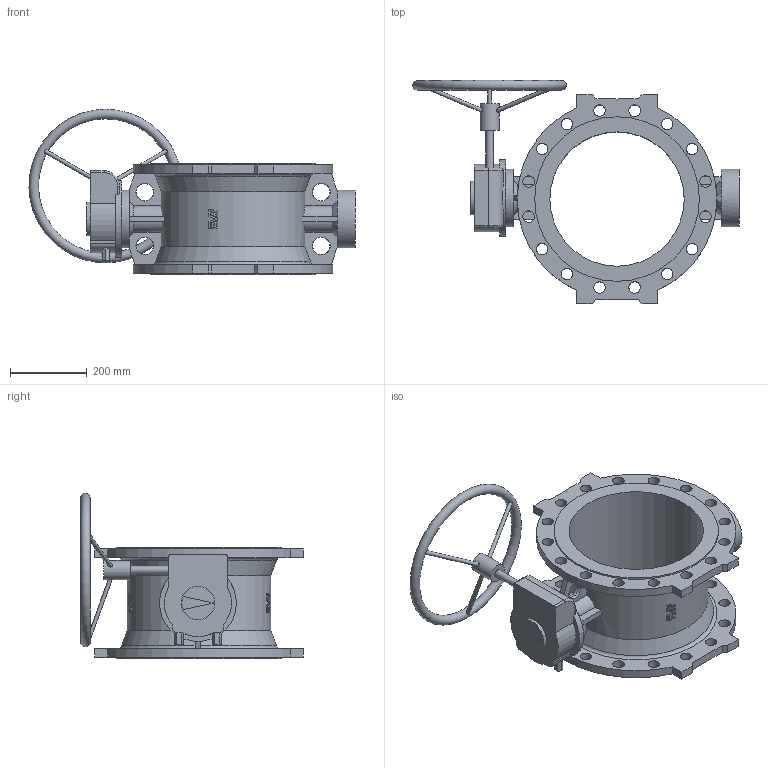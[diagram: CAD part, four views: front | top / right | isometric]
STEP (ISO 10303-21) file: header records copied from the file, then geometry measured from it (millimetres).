
FILE_DESCRIPTION (( 'STEP AP203' ), '1' );
FILE_NAME ('O_756_1_DN350_1XX00_AA0_step.step', '2016-03-04T11:39:35', ( 'Windows User' ), ( 'AVK' ), 'SwSTEP 2.0', 'SolidWorks 2012', '' );
FILE_SCHEMA (( 'CONFIG_CONTROL_DESIGN' ));
Length unit declared in the file: millimetre
Products named in the file (1): O_756_1_DN350_1XX00_AA0_step
Bounding box: 849.98 x 580.98 x 431 mm (x, y, z)
Volume: 15323707 mm3; surface area: 1531767.6 mm2
Topology: 1 solids, 1 shells, 355 faces, 1032 edges, 696 vertices
Faces by surface type: plane 173, bspline 78, cylinder 77, cone 20, torus 7
Full cylindrical faces by diameter (mm): 10 x3, 20 x1, 30 x32, 50 x1, 88 x1, 150 x2, 200 x1, 350 x1, 429 x2
Entity records: 15682 total; most frequent: CARTESIAN_POINT 7122, ORIENTED_EDGE 1884, DIRECTION 1405, EDGE_CURVE 942, VERTEX_POINT 659, EDGE_LOOP 503, LINE 481, VECTOR 481
